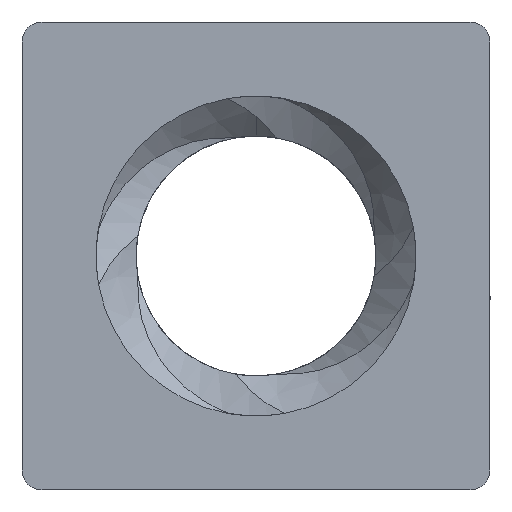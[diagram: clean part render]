
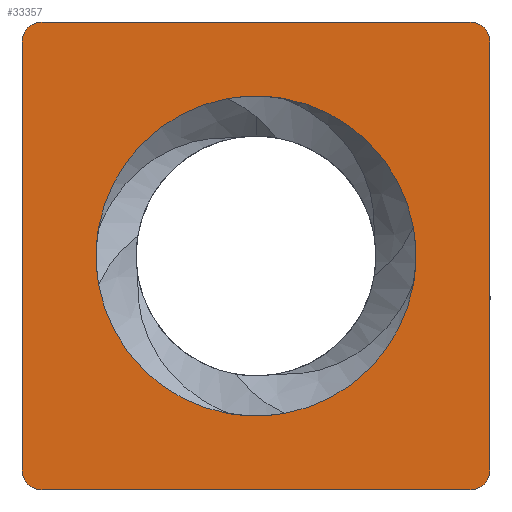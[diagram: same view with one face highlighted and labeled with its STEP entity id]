
A CAD part, front view. The second image highlights one B-rep face of the part: STEP entity #33357.
In plain terms, the highlighted planar face has unit normal (0, -1, 0).
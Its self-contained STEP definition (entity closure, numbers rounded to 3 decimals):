
#19 = ORIENTED_EDGE ( 'NONE', *, *, #50367, .T. ) ;
#419 = CARTESIAN_POINT ( 'NONE',  ( 5.85, 32., 5.35 ) ) ;
#787 = AXIS2_PLACEMENT_3D ( 'NONE', #30907, #39710, #39886 ) ;
#1825 = CARTESIAN_POINT ( 'NONE',  ( 5.35, 32., 5.35 ) ) ;
#1898 = CARTESIAN_POINT ( 'NONE',  ( 5.85, 32., -5.35 ) ) ;
#2611 = AXIS2_PLACEMENT_3D ( 'NONE', #13733, #38389, #5840 ) ;
#3210 = CARTESIAN_POINT ( 'NONE',  ( -5.85, 32., 5.35 ) ) ;
#3432 = ORIENTED_EDGE ( 'NONE', *, *, #41354, .T. ) ;
#3670 = CARTESIAN_POINT ( 'NONE',  ( 5.85, 32., -5.85 ) ) ;
#4220 = ORIENTED_EDGE ( 'NONE', *, *, #16777, .T. ) ;
#4424 = CARTESIAN_POINT ( 'NONE',  ( -5.35, 32., 5.85 ) ) ;
#5120 = DIRECTION ( 'NONE',  ( 0., 1., 0. ) ) ;
#5713 = AXIS2_PLACEMENT_3D ( 'NONE', #49705, #24519, #25048 ) ;
#5840 = DIRECTION ( 'NONE',  ( 0., 0., 1. ) ) ;
#7225 = CARTESIAN_POINT ( 'NONE',  ( -5.35, 32., 5.35 ) ) ;
#7820 = EDGE_CURVE ( 'NONE', #46308, #51976, #46735, .T. ) ;
#8668 = LINE ( 'NONE', #3670, #17010 ) ;
#8759 = CARTESIAN_POINT ( 'NONE',  ( -0.712, 32., 3.936 ) ) ;
#9261 = CARTESIAN_POINT ( 'NONE',  ( 0., 32., 0. ) ) ;
#9621 = CARTESIAN_POINT ( 'NONE',  ( 0.661, 32., 3.945 ) ) ;
#10040 = EDGE_CURVE ( 'NONE', #52790, #48671, #28028, .T. ) ;
#10182 = CARTESIAN_POINT ( 'NONE',  ( -3.936, 32., -0.712 ) ) ;
#10610 = CIRCLE ( 'NONE', #5713, 0.5 ) ;
#10940 = CARTESIAN_POINT ( 'NONE',  ( -5.85, 32., -5.85 ) ) ;
#13254 = ORIENTED_EDGE ( 'NONE', *, *, #22798, .T. ) ;
#13300 = VERTEX_POINT ( 'NONE', #17955 ) ;
#13733 = CARTESIAN_POINT ( 'NONE',  ( 0., 32., 0. ) ) ;
#13915 = CARTESIAN_POINT ( 'NONE',  ( -0.661, 32., -3.945 ) ) ;
#13996 = LINE ( 'NONE', #16406, #17852 ) ;
#14523 = EDGE_CURVE ( 'NONE', #52342, #24496, #45356, .T. ) ;
#15172 = EDGE_LOOP ( 'NONE', ( #13254, #25599, #19, #29337, #47210, #42377, #34560, #53402 ) ) ;
#15214 = EDGE_CURVE ( 'NONE', #13300, #46994, #19010, .T. ) ;
#15383 = VERTEX_POINT ( 'NONE', #4424 ) ;
#15949 = DIRECTION ( 'NONE',  ( 0., 0., 1. ) ) ;
#16406 = CARTESIAN_POINT ( 'NONE',  ( -5.85, 32., -5.85 ) ) ;
#16633 = DIRECTION ( 'NONE',  ( 0., 0., 1. ) ) ;
#16777 = EDGE_CURVE ( 'NONE', #24496, #32369, #20900, .T. ) ;
#17010 = VECTOR ( 'NONE', #36920, 1000. ) ;
#17173 = DIRECTION ( 'NONE',  ( 0., 0., 1. ) ) ;
#17739 = AXIS2_PLACEMENT_3D ( 'NONE', #7225, #36184, #52189 ) ;
#17852 = VECTOR ( 'NONE', #36583, 1000. ) ;
#17955 = CARTESIAN_POINT ( 'NONE',  ( -5.35, 32., -5.85 ) ) ;
#17969 = AXIS2_PLACEMENT_3D ( 'NONE', #32150, #23533, #15949 ) ;
#18112 = DIRECTION ( 'NONE',  ( 0., 0., 1. ) ) ;
#18800 = DIRECTION ( 'NONE',  ( 0., 0., 1. ) ) ;
#19010 = LINE ( 'NONE', #10940, #49853 ) ;
#20425 = FACE_OUTER_BOUND ( 'NONE', #15172, .T. ) ;
#20900 = CIRCLE ( 'NONE', #46280, 4. ) ;
#21014 = AXIS2_PLACEMENT_3D ( 'NONE', #45787, #38237, #17173 ) ;
#21145 = DIRECTION ( 'NONE',  ( 0., 1., 0. ) ) ;
#21839 = CARTESIAN_POINT ( 'NONE',  ( -3.945, 32., 0.661 ) ) ;
#21869 = CIRCLE ( 'NONE', #30777, 4. ) ;
#22165 = DIRECTION ( 'NONE',  ( 0., 1., 0. ) ) ;
#22798 = EDGE_CURVE ( 'NONE', #30144, #13300, #10610, .T. ) ;
#23512 = CARTESIAN_POINT ( 'NONE',  ( -5.85, 32., -5.35 ) ) ;
#23533 = DIRECTION ( 'NONE',  ( 0., -1., 0. ) ) ;
#23887 = CARTESIAN_POINT ( 'NONE',  ( 3.936, 32., 0.712 ) ) ;
#24381 = CARTESIAN_POINT ( 'NONE',  ( 0., 32., 0. ) ) ;
#24496 = VERTEX_POINT ( 'NONE', #13915 ) ;
#24519 = DIRECTION ( 'NONE',  ( 0., -1., 0. ) ) ;
#25005 = ORIENTED_EDGE ( 'NONE', *, *, #14523, .T. ) ;
#25048 = DIRECTION ( 'NONE',  ( 0., 0., 1. ) ) ;
#25529 = VERTEX_POINT ( 'NONE', #25595 ) ;
#25595 = CARTESIAN_POINT ( 'NONE',  ( 3.945, 32., -0.661 ) ) ;
#25599 = ORIENTED_EDGE ( 'NONE', *, *, #15214, .T. ) ;
#26119 = VERTEX_POINT ( 'NONE', #21839 ) ;
#26285 = DIRECTION ( 'NONE',  ( 0., 0., 1. ) ) ;
#26337 = DIRECTION ( 'NONE',  ( 0., 0., 1. ) ) ;
#27098 = CARTESIAN_POINT ( 'NONE',  ( 0., 32., 0. ) ) ;
#27587 = EDGE_CURVE ( 'NONE', #15383, #50738, #29188, .T. ) ;
#27997 = DIRECTION ( 'NONE',  ( 0., 1., 0. ) ) ;
#28028 = CIRCLE ( 'NONE', #49024, 0.5 ) ;
#28174 = ORIENTED_EDGE ( 'NONE', *, *, #39658, .T. ) ;
#29132 = ORIENTED_EDGE ( 'NONE', *, *, #52398, .T. ) ;
#29188 = CIRCLE ( 'NONE', #17739, 0.5 ) ;
#29337 = ORIENTED_EDGE ( 'NONE', *, *, #35179, .T. ) ;
#29502 = VECTOR ( 'NONE', #33862, 1000. ) ;
#29792 = DIRECTION ( 'NONE',  ( 0., -1., 0. ) ) ;
#29872 = ORIENTED_EDGE ( 'NONE', *, *, #34887, .T. ) ;
#30144 = VERTEX_POINT ( 'NONE', #23512 ) ;
#30671 = ORIENTED_EDGE ( 'NONE', *, *, #45700, .T. ) ;
#30705 = DIRECTION ( 'NONE',  ( 0., 0., 1. ) ) ;
#30777 = AXIS2_PLACEMENT_3D ( 'NONE', #27098, #47621, #30705 ) ;
#30907 = CARTESIAN_POINT ( 'NONE',  ( 0., 32., 0. ) ) ;
#31198 = DIRECTION ( 'NONE',  ( 0., 1., 0. ) ) ;
#31370 = CARTESIAN_POINT ( 'NONE',  ( -5.85, 32., -5.85 ) ) ;
#32150 = CARTESIAN_POINT ( 'NONE',  ( 5.35, 32., -5.35 ) ) ;
#32369 = VERTEX_POINT ( 'NONE', #10182 ) ;
#32549 = VERTEX_POINT ( 'NONE', #1898 ) ;
#33017 = CARTESIAN_POINT ( 'NONE',  ( 0.712, 32., -3.936 ) ) ;
#33357 = ADVANCED_FACE ( 'NONE', ( #51298, #20425 ), #39484, .F. ) ;
#33399 = CARTESIAN_POINT ( 'NONE',  ( 5.35, 32., 5.85 ) ) ;
#33502 = AXIS2_PLACEMENT_3D ( 'NONE', #46806, #22165, #26285 ) ;
#33862 = DIRECTION ( 'NONE',  ( 1., 0., 0. ) ) ;
#34035 = CIRCLE ( 'NONE', #21014, 4. ) ;
#34168 = AXIS2_PLACEMENT_3D ( 'NONE', #9261, #5120, #26337 ) ;
#34560 = ORIENTED_EDGE ( 'NONE', *, *, #27587, .T. ) ;
#34776 = CIRCLE ( 'NONE', #34168, 4. ) ;
#34887 = EDGE_CURVE ( 'NONE', #48121, #46308, #52583, .T. ) ;
#35173 = ORIENTED_EDGE ( 'NONE', *, *, #7820, .T. ) ;
#35179 = EDGE_CURVE ( 'NONE', #32549, #52790, #8668, .T. ) ;
#35561 = EDGE_CURVE ( 'NONE', #30144, #50738, #13996, .T. ) ;
#36184 = DIRECTION ( 'NONE',  ( 0., -1., 0. ) ) ;
#36284 = DIRECTION ( 'NONE',  ( 0., 0., 1. ) ) ;
#36583 = DIRECTION ( 'NONE',  ( 0., 0., 1. ) ) ;
#36920 = DIRECTION ( 'NONE',  ( 0., 0., 1. ) ) ;
#37833 = EDGE_CURVE ( 'NONE', #15383, #48671, #45672, .T. ) ;
#38237 = DIRECTION ( 'NONE',  ( 0., 1., 0. ) ) ;
#38389 = DIRECTION ( 'NONE',  ( 0., 1., 0. ) ) ;
#38545 = CARTESIAN_POINT ( 'NONE',  ( -5.85, 32., 5.85 ) ) ;
#39484 = PLANE ( 'NONE',  #47849 ) ;
#39658 = EDGE_CURVE ( 'NONE', #25529, #52342, #34776, .T. ) ;
#39710 = DIRECTION ( 'NONE',  ( 0., 1., 0. ) ) ;
#39886 = DIRECTION ( 'NONE',  ( 0., 0., 1. ) ) ;
#41282 = CARTESIAN_POINT ( 'NONE',  ( 0., 32., 0. ) ) ;
#41354 = EDGE_CURVE ( 'NONE', #51976, #25529, #21869, .T. ) ;
#41467 = DIRECTION ( 'NONE',  ( 1., 0., 0. ) ) ;
#41582 = EDGE_LOOP ( 'NONE', ( #35173, #3432, #28174, #25005, #4220, #30671, #29132, #29872 ) ) ;
#42377 = ORIENTED_EDGE ( 'NONE', *, *, #37833, .F. ) ;
#43200 = AXIS2_PLACEMENT_3D ( 'NONE', #41282, #21145, #16633 ) ;
#45356 = CIRCLE ( 'NONE', #787, 4. ) ;
#45672 = LINE ( 'NONE', #38545, #29502 ) ;
#45700 = EDGE_CURVE ( 'NONE', #32369, #26119, #52088, .T. ) ;
#45787 = CARTESIAN_POINT ( 'NONE',  ( 0., 32., 0. ) ) ;
#46280 = AXIS2_PLACEMENT_3D ( 'NONE', #24381, #27997, #36284 ) ;
#46308 = VERTEX_POINT ( 'NONE', #9621 ) ;
#46735 = CIRCLE ( 'NONE', #33502, 4. ) ;
#46806 = CARTESIAN_POINT ( 'NONE',  ( 0., 32., 0. ) ) ;
#46994 = VERTEX_POINT ( 'NONE', #47203 ) ;
#47203 = CARTESIAN_POINT ( 'NONE',  ( 5.35, 32., -5.85 ) ) ;
#47210 = ORIENTED_EDGE ( 'NONE', *, *, #10040, .T. ) ;
#47621 = DIRECTION ( 'NONE',  ( 0., 1., 0. ) ) ;
#47849 = AXIS2_PLACEMENT_3D ( 'NONE', #31370, #31198, #18800 ) ;
#48121 = VERTEX_POINT ( 'NONE', #8759 ) ;
#48671 = VERTEX_POINT ( 'NONE', #33399 ) ;
#49024 = AXIS2_PLACEMENT_3D ( 'NONE', #1825, #29792, #18112 ) ;
#49705 = CARTESIAN_POINT ( 'NONE',  ( -5.35, 32., -5.35 ) ) ;
#49853 = VECTOR ( 'NONE', #41467, 1000. ) ;
#50367 = EDGE_CURVE ( 'NONE', #46994, #32549, #50752, .T. ) ;
#50738 = VERTEX_POINT ( 'NONE', #3210 ) ;
#50752 = CIRCLE ( 'NONE', #17969, 0.5 ) ;
#51298 = FACE_BOUND ( 'NONE', #41582, .T. ) ;
#51976 = VERTEX_POINT ( 'NONE', #23887 ) ;
#52088 = CIRCLE ( 'NONE', #2611, 4. ) ;
#52189 = DIRECTION ( 'NONE',  ( 0., 0., 1. ) ) ;
#52342 = VERTEX_POINT ( 'NONE', #33017 ) ;
#52398 = EDGE_CURVE ( 'NONE', #26119, #48121, #34035, .T. ) ;
#52583 = CIRCLE ( 'NONE', #43200, 4. ) ;
#52790 = VERTEX_POINT ( 'NONE', #419 ) ;
#53402 = ORIENTED_EDGE ( 'NONE', *, *, #35561, .F. ) ;
